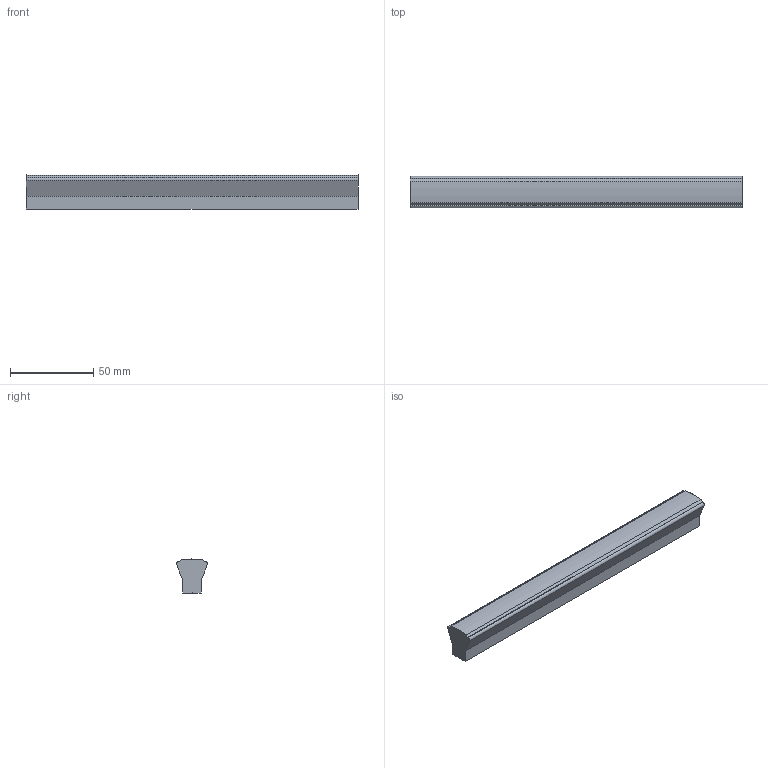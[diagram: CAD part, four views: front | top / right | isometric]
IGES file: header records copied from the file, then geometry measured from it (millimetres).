
Start section: Comment
Global section: file name: 8219.igs; native system: Parasolid(12.0); preprocessor: Pariges 4.4; author: Author; organization: Title; date: 20200903.174426; units: millimetre
Bounding box: 200 x 18.79 x 20.5 mm (x, y, z)
Surface area: 14804.7 mm2 (no closed solid volume)
Topology: 0 solids, 0 shells, 27 faces, 216 edges, 216 vertices
Faces by surface type: extrusion 20, revolution 7
